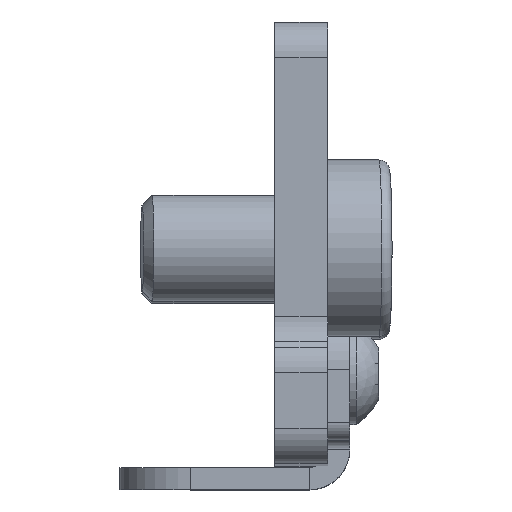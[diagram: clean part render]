
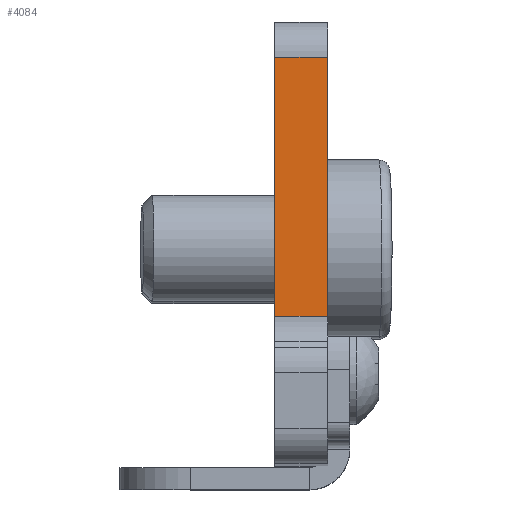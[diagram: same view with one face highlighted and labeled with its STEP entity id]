
A CAD part, top view. The second image highlights one B-rep face of the part: STEP entity #4084.
In plain terms, the highlighted planar face has unit normal (0, 0, 1).
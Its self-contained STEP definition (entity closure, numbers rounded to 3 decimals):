
#29 = AXIS2_PLACEMENT_3D ( 'NONE', #2417, #1658, #1311 ) ;
#36 = ORIENTED_EDGE ( 'NONE', *, *, #1763, .T. ) ;
#163 = VECTOR ( 'NONE', #4026, 1000. ) ;
#315 = CARTESIAN_POINT ( 'NONE',  ( 0., 25., 80. ) ) ;
#526 = LINE ( 'NONE', #3239, #163 ) ;
#558 = PLANE ( 'NONE',  #29 ) ;
#588 = CARTESIAN_POINT ( 'NONE',  ( 3., 25., 80. ) ) ;
#677 = CARTESIAN_POINT ( 'NONE',  ( 3., 23., 80. ) ) ;
#680 = CARTESIAN_POINT ( 'NONE',  ( 3., 8.328, 80. ) ) ;
#737 = DIRECTION ( 'NONE',  ( 0., -1., 0. ) ) ;
#744 = LINE ( 'NONE', #588, #2485 ) ;
#912 = VERTEX_POINT ( 'NONE', #3045 ) ;
#931 = ORIENTED_EDGE ( 'NONE', *, *, #4707, .T. ) ;
#988 = VECTOR ( 'NONE', #737, 1000. ) ;
#1311 = DIRECTION ( 'NONE',  ( 0., -1., 0. ) ) ;
#1397 = DIRECTION ( 'NONE',  ( 0., -1., 0. ) ) ;
#1611 = CARTESIAN_POINT ( 'NONE',  ( 0., 8.328, 80. ) ) ;
#1652 = EDGE_LOOP ( 'NONE', ( #4966, #4734, #931, #36 ) ) ;
#1658 = DIRECTION ( 'NONE',  ( 0., 0., 1. ) ) ;
#1727 = VERTEX_POINT ( 'NONE', #680 ) ;
#1763 = EDGE_CURVE ( 'NONE', #3851, #1727, #3306, .T. ) ;
#2159 = VECTOR ( 'NONE', #4469, 1000. ) ;
#2417 = CARTESIAN_POINT ( 'NONE',  ( 0., 25., 80. ) ) ;
#2485 = VECTOR ( 'NONE', #1397, 1000. ) ;
#2513 = CARTESIAN_POINT ( 'NONE',  ( 3., 8.328, 80. ) ) ;
#2889 = LINE ( 'NONE', #315, #988 ) ;
#3045 = CARTESIAN_POINT ( 'NONE',  ( 0., 23., 80. ) ) ;
#3189 = EDGE_CURVE ( 'NONE', #3617, #912, #526, .T. ) ;
#3239 = CARTESIAN_POINT ( 'NONE',  ( 0., 23., 80. ) ) ;
#3306 = LINE ( 'NONE', #2513, #2159 ) ;
#3617 = VERTEX_POINT ( 'NONE', #677 ) ;
#3833 = FACE_OUTER_BOUND ( 'NONE', #1652, .T. ) ;
#3851 = VERTEX_POINT ( 'NONE', #1611 ) ;
#4026 = DIRECTION ( 'NONE',  ( -1., 0., 0. ) ) ;
#4084 = ADVANCED_FACE ( 'NONE', ( #3833 ), #558, .T. ) ;
#4232 = EDGE_CURVE ( 'NONE', #3617, #1727, #744, .T. ) ;
#4469 = DIRECTION ( 'NONE',  ( 1., 0., 0. ) ) ;
#4707 = EDGE_CURVE ( 'NONE', #912, #3851, #2889, .T. ) ;
#4734 = ORIENTED_EDGE ( 'NONE', *, *, #3189, .T. ) ;
#4966 = ORIENTED_EDGE ( 'NONE', *, *, #4232, .F. ) ;
